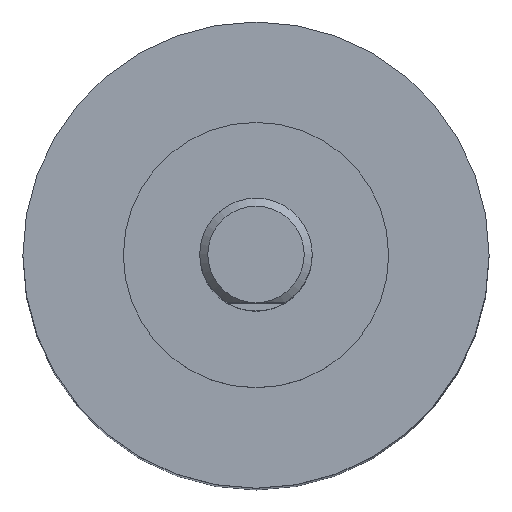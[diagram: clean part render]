
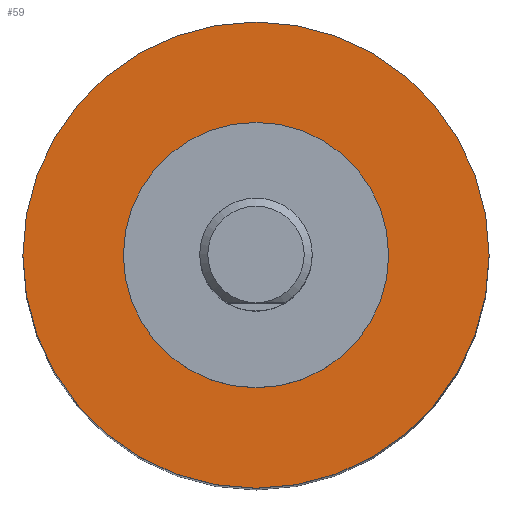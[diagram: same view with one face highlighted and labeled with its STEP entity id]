
A CAD part, top view. The second image highlights one B-rep face of the part: STEP entity #59.
In plain terms, the highlighted planar face has unit normal (0, 0, 1).
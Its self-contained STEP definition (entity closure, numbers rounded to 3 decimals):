
#48=PLANE('',#242);
#59=ADVANCED_FACE('',(#85,#86),#48,.T.);
#85=FACE_BOUND('',#111,.T.);
#86=FACE_BOUND('',#112,.T.);
#111=EDGE_LOOP('',(#142));
#112=EDGE_LOOP('',(#143));
#142=ORIENTED_EDGE('',*,*,#202,.F.);
#143=ORIENTED_EDGE('',*,*,#200,.F.);
#182=VERTEX_POINT('',#347);
#184=VERTEX_POINT('',#352);
#200=EDGE_CURVE('',#182,#182,#221,.T.);
#202=EDGE_CURVE('',#184,#184,#223,.T.);
#221=CIRCLE('',#238,2.9);
#223=CIRCLE('',#241,1.65);
#238=AXIS2_PLACEMENT_3D('',#346,#274,#275);
#241=AXIS2_PLACEMENT_3D('',#351,#280,#281);
#242=AXIS2_PLACEMENT_3D('',#353,#282,#283);
#274=DIRECTION('',(0.,0.,-1.));
#275=DIRECTION('',(1.,0.,0.));
#280=DIRECTION('',(0.,0.,1.));
#281=DIRECTION('',(1.,0.,0.));
#282=DIRECTION('',(0.,0.,1.));
#283=DIRECTION('',(1.,0.,0.));
#346=CARTESIAN_POINT('',(0.,0.,0.));
#347=CARTESIAN_POINT('',(2.9,0.,0.));
#351=CARTESIAN_POINT('',(0.,0.,0.));
#352=CARTESIAN_POINT('',(1.65,0.,0.));
#353=CARTESIAN_POINT('',(0.,0.,0.));
